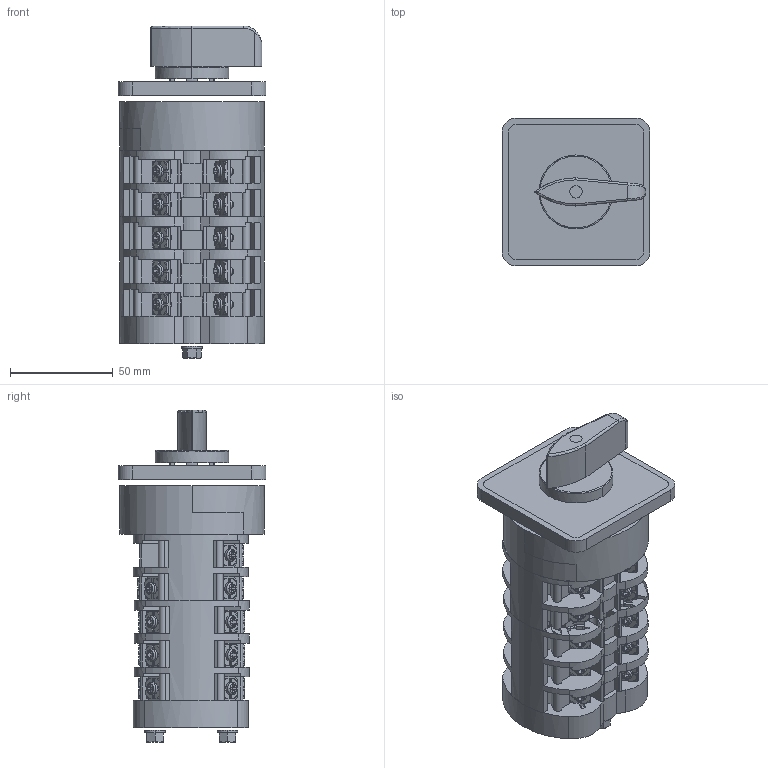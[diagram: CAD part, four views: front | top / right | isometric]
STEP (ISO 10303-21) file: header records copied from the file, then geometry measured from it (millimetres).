
FILE_DESCRIPTION((''),'2;1');
FILE_NAME('2470000100_SW0001','2025-04-08T',('sipei.wu'),(''),'PRO/ENGINEER BY PARAMETRIC TECHNOLOGY CORPORATION, 2015440','PRO/ENGINEER BY PARAMETRIC TECHNOLOGY CORPORATION, 2015440','');
FILE_SCHEMA(('CONFIG_CONTROL_DESIGN'));
Products named in the file (1): 2470000100_SW0001
Bounding box: 72 x 72 x 161.55 mm (x, y, z)
Volume: 341901.4 mm3; surface area: 114445.4 mm2
Topology: 5 solids, 26 shells, 3742 faces, 10490 edges, 6729 vertices
Faces by surface type: plane 2507, cylinder 976, cone 113, torus 105, sphere 36, bspline 5
Entity records: 122717 total; most frequent: CARTESIAN_POINT 24905, ORIENTED_EDGE 20980, DIRECTION 20002, EDGE_CURVE 10490, VECTOR 7294, LINE 7294, VERTEX_POINT 6729, AXIS2_PLACEMENT_3D 6354
